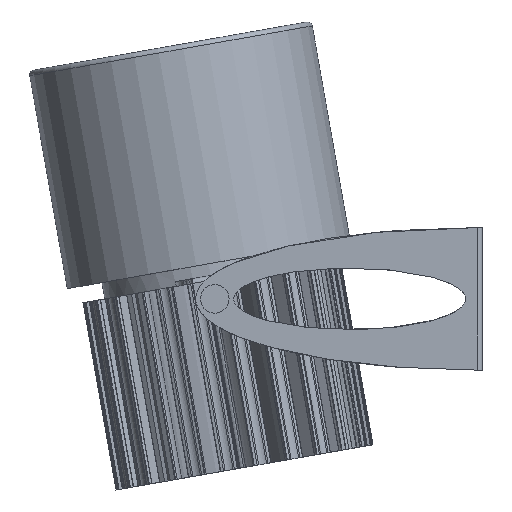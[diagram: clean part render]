
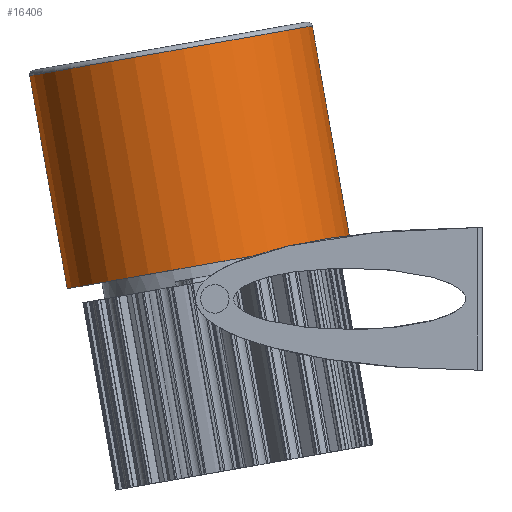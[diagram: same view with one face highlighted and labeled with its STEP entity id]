
A CAD part, left-side view. The second image highlights one B-rep face of the part: STEP entity #16406.
In plain terms, the highlighted cylindrical face has radius 60.6 mm (diameter 121.2 mm), a full revolution.
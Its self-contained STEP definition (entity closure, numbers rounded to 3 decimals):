
#168=CYLINDRICAL_SURFACE('',#17416,60.6);
#915=LINE('',#27461,#2076);
#2076=VECTOR('',#20008,60.6);
#3434=FACE_OUTER_BOUND('',#4312,.T.);
#4312=EDGE_LOOP('',(#11595,#11596,#11597,#11598));
#5232=CIRCLE('',#17417,60.6);
#5233=CIRCLE('',#17418,60.6);
#6688=VERTEX_POINT('',#27458);
#6689=VERTEX_POINT('',#27460);
#8625=EDGE_CURVE('',#6688,#6688,#5232,.T.);
#8626=EDGE_CURVE('',#6688,#6689,#915,.T.);
#8627=EDGE_CURVE('',#6689,#6689,#5233,.T.);
#11595=ORIENTED_EDGE('',*,*,#8625,.F.);
#11596=ORIENTED_EDGE('',*,*,#8626,.T.);
#11597=ORIENTED_EDGE('',*,*,#8627,.T.);
#11598=ORIENTED_EDGE('',*,*,#8626,.F.);
#16406=ADVANCED_FACE('',(#3434),#168,.T.);
#17416=AXIS2_PLACEMENT_3D('',#27457,#20004,#20005);
#17417=AXIS2_PLACEMENT_3D('',#27459,#20006,#20007);
#17418=AXIS2_PLACEMENT_3D('',#27462,#20009,#20010);
#20004=DIRECTION('center_axis',(0.,0.174,
0.985));
#20005=DIRECTION('ref_axis',(0.707,0.696,-0.123));
#20006=DIRECTION('center_axis',(0.,0.174,
0.985));
#20007=DIRECTION('ref_axis',(0.707,0.696,-0.123));
#20008=DIRECTION('',(0.,-0.174,-0.985));
#20009=DIRECTION('center_axis',(0.,0.174,
0.985));
#20010=DIRECTION('ref_axis',(0.707,0.696,-0.123));
#27457=CARTESIAN_POINT('Origin',(0.,10.505,
1041.492));
#27458=CARTESIAN_POINT('',(-42.851,-23.794,1093.742));
#27459=CARTESIAN_POINT('Origin',(0.,18.406,
1086.301));
#27460=CARTESIAN_POINT('',(-42.851,-39.596,1004.124));
#27461=CARTESIAN_POINT('',(-42.851,-31.695,1048.933));
#27462=CARTESIAN_POINT('Origin',(0.,2.604,
996.684));
